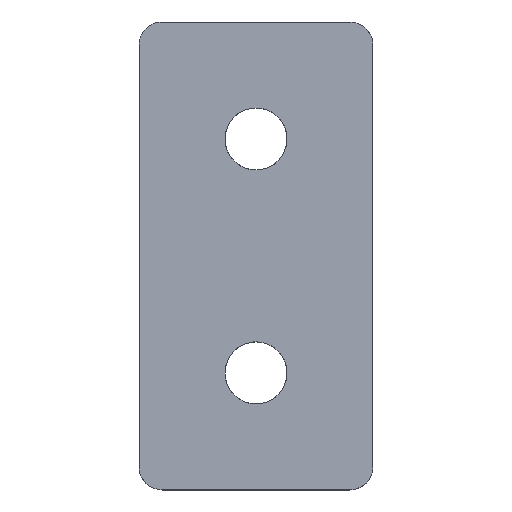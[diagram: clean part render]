
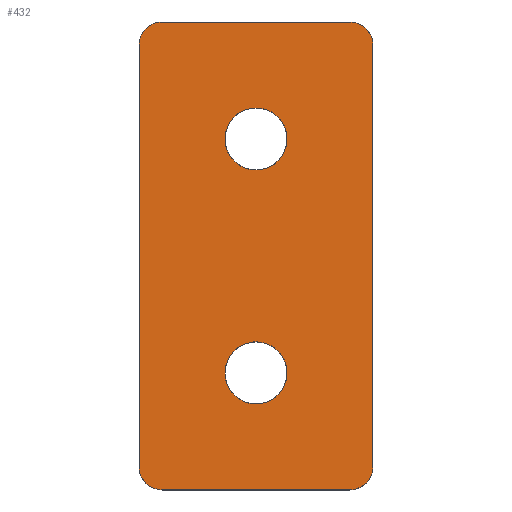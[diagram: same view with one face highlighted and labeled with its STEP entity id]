
A CAD part, top view. The second image highlights one B-rep face of the part: STEP entity #432.
In plain terms, the highlighted planar face has unit normal (0.028, 0, 1).
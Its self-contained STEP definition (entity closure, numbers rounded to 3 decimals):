
#6=DIRECTION('',(1.,0.,-0.028));
#7=VECTOR('',#6,16.006);
#8=CARTESIAN_POINT('',(-8.,-20.,5.51));
#9=LINE('',#8,#7);
#62=CARTESIAN_POINT('',(-8.,20.,5.51));
#63=CARTESIAN_POINT('',(-8.333,20.,5.52));
#64=CARTESIAN_POINT('',(-8.855,19.855,5.535));
#65=CARTESIAN_POINT('',(-9.444,19.444,5.551));
#66=CARTESIAN_POINT('',(-9.855,18.855,5.563));
#67=CARTESIAN_POINT('',(-10.,18.333,5.567));
#68=CARTESIAN_POINT('',(-10.,18.,5.567));
#70=CARTESIAN_POINT('',(10.,18.,5.));
#71=CARTESIAN_POINT('',(10.,18.333,5.));
#72=CARTESIAN_POINT('',(9.855,18.855,5.004));
#73=CARTESIAN_POINT('',(9.444,19.444,5.016));
#74=CARTESIAN_POINT('',(8.855,19.855,5.032));
#75=CARTESIAN_POINT('',(8.333,20.,5.047));
#76=CARTESIAN_POINT('',(8.,20.,5.057));
#78=CARTESIAN_POINT('',(8.,-20.,5.057));
#79=CARTESIAN_POINT('',(8.333,-20.,5.047));
#80=CARTESIAN_POINT('',(8.855,-19.855,5.032));
#81=CARTESIAN_POINT('',(9.444,-19.444,5.016));
#82=CARTESIAN_POINT('',(9.855,-18.855,5.004));
#83=CARTESIAN_POINT('',(10.,-18.333,5.));
#84=CARTESIAN_POINT('',(10.,-18.,5.));
#86=CARTESIAN_POINT('',(-10.,-18.,5.567));
#87=CARTESIAN_POINT('',(-10.,-18.333,5.567));
#88=CARTESIAN_POINT('',(-9.855,-18.855,5.563));
#89=CARTESIAN_POINT('',(-9.444,-19.444,5.551));
#90=CARTESIAN_POINT('',(-8.855,-19.855,5.535));
#91=CARTESIAN_POINT('',(-8.333,-20.,5.52));
#92=CARTESIAN_POINT('',(-8.,-20.,5.51));
#94=DIRECTION('',(0.,1.,0.));
#95=VECTOR('',#94,36.);
#96=CARTESIAN_POINT('',(-10.,-18.,5.567));
#97=LINE('',#96,#95);
#98=CARTESIAN_POINT('',(2.65,10.,5.208));
#99=CARTESIAN_POINT('',(2.65,9.688,5.208));
#100=CARTESIAN_POINT('',(2.537,9.013,5.212));
#101=CARTESIAN_POINT('',(1.929,8.07,5.229));
#102=CARTESIAN_POINT('',(1.145,7.565,5.251));
#103=CARTESIAN_POINT('',(0.479,7.378,5.27));
#104=CARTESIAN_POINT('',(0.,7.336,5.283));
#105=CARTESIAN_POINT('',(-0.479,7.378,5.297));
#106=CARTESIAN_POINT('',(-1.145,7.565,5.316));
#107=CARTESIAN_POINT('',(-1.929,8.07,5.338));
#108=CARTESIAN_POINT('',(-2.537,9.013,5.355));
#109=CARTESIAN_POINT('',(-2.65,9.688,5.359));
#110=CARTESIAN_POINT('',(-2.65,10.,5.359));
#112=CARTESIAN_POINT('',(-2.65,10.,5.359));
#113=CARTESIAN_POINT('',(-2.65,10.312,5.359));
#114=CARTESIAN_POINT('',(-2.537,10.987,5.355));
#115=CARTESIAN_POINT('',(-1.929,11.93,5.338));
#116=CARTESIAN_POINT('',(-1.145,12.435,5.316));
#117=CARTESIAN_POINT('',(-0.479,12.622,5.297));
#118=CARTESIAN_POINT('',(0.,12.664,5.283));
#119=CARTESIAN_POINT('',(0.479,12.622,5.27));
#120=CARTESIAN_POINT('',(1.145,12.435,5.251));
#121=CARTESIAN_POINT('',(1.929,11.93,5.229));
#122=CARTESIAN_POINT('',(2.537,10.987,5.212));
#123=CARTESIAN_POINT('',(2.65,10.312,5.208));
#124=CARTESIAN_POINT('',(2.65,10.,5.208));
#126=CARTESIAN_POINT('',(2.65,-10.,5.208));
#127=CARTESIAN_POINT('',(2.65,-10.312,5.208));
#128=CARTESIAN_POINT('',(2.537,-10.987,5.212));
#129=CARTESIAN_POINT('',(1.929,-11.93,5.229));
#130=CARTESIAN_POINT('',(1.145,-12.435,5.251));
#131=CARTESIAN_POINT('',(0.479,-12.622,5.27));
#132=CARTESIAN_POINT('',(0.,-12.664,5.283));
#133=CARTESIAN_POINT('',(-0.479,-12.622,
5.297));
#134=CARTESIAN_POINT('',(-1.145,-12.435,5.316));
#135=CARTESIAN_POINT('',(-1.929,-11.93,5.338));
#136=CARTESIAN_POINT('',(-2.537,-10.987,5.355));
#137=CARTESIAN_POINT('',(-2.65,-10.312,5.359));
#138=CARTESIAN_POINT('',(-2.65,-10.,5.359));
#140=CARTESIAN_POINT('',(-2.65,-10.,5.359));
#141=CARTESIAN_POINT('',(-2.65,-9.688,5.359));
#142=CARTESIAN_POINT('',(-2.537,-9.013,5.355));
#143=CARTESIAN_POINT('',(-1.929,-8.07,5.338));
#144=CARTESIAN_POINT('',(-1.145,-7.565,5.316));
#145=CARTESIAN_POINT('',(-0.479,-7.378,
5.297));
#146=CARTESIAN_POINT('',(0.,-7.336,5.283));
#147=CARTESIAN_POINT('',(0.479,-7.378,5.27));
#148=CARTESIAN_POINT('',(1.145,-7.565,5.251));
#149=CARTESIAN_POINT('',(1.929,-8.07,5.229));
#150=CARTESIAN_POINT('',(2.537,-9.013,5.212));
#151=CARTESIAN_POINT('',(2.65,-9.688,5.208));
#152=CARTESIAN_POINT('',(2.65,-10.,5.208));
#166=DIRECTION('',(1.,0.,-0.028));
#167=VECTOR('',#166,16.006);
#168=CARTESIAN_POINT('',(-8.,20.,5.51));
#169=LINE('',#168,#167);
#178=DIRECTION('',(0.,1.,0.));
#179=VECTOR('',#178,36.);
#180=CARTESIAN_POINT('',(10.,-18.,5.));
#181=LINE('',#180,#179);
#266=VERTEX_POINT('',#62);
#267=VERTEX_POINT('',#68);
#276=CARTESIAN_POINT('',(10.,18.,5.));
#277=VERTEX_POINT('',#276);
#278=VERTEX_POINT('',#76);
#283=CARTESIAN_POINT('',(-10.,-18.,5.567));
#284=VERTEX_POINT('',#283);
#285=VERTEX_POINT('',#92);
#286=VERTEX_POINT('',#78);
#287=VERTEX_POINT('',#84);
#312=VERTEX_POINT('',#98);
#313=VERTEX_POINT('',#110);
#318=VERTEX_POINT('',#126);
#319=VERTEX_POINT('',#138);
#400=CARTESIAN_POINT('',(-10.,-20.,5.567));
#401=DIRECTION('',(0.028,0.,1.));
#402=DIRECTION('',(1.,0.,-0.028));
#403=AXIS2_PLACEMENT_3D('',#400,#401,#402);
#404=PLANE('',#403);
#405=ORIENTED_EDGE('',*,*,#390,.F.);
#407=ORIENTED_EDGE('',*,*,#406,.T.);
#409=ORIENTED_EDGE('',*,*,#408,.F.);
#411=ORIENTED_EDGE('',*,*,#410,.F.);
#413=ORIENTED_EDGE('',*,*,#412,.F.);
#414=ORIENTED_EDGE('',*,*,#327,.F.);
#415=ORIENTED_EDGE('',*,*,#345,.F.);
#417=ORIENTED_EDGE('',*,*,#416,.T.);
#418=EDGE_LOOP('',(#405,#407,#409,#411,#413,#414,#415,#417));
#419=FACE_OUTER_BOUND('',#418,.F.);
#421=ORIENTED_EDGE('',*,*,#420,.F.);
#423=ORIENTED_EDGE('',*,*,#422,.F.);
#424=EDGE_LOOP('',(#421,#423));
#425=FACE_BOUND('',#424,.F.);
#427=ORIENTED_EDGE('',*,*,#426,.F.);
#429=ORIENTED_EDGE('',*,*,#428,.F.);
#430=EDGE_LOOP('',(#427,#429));
#431=FACE_BOUND('',#430,.F.);
#432=ADVANCED_FACE('',(#419,#425,#431),#404,.T.);
#69=B_SPLINE_CURVE_WITH_KNOTS('',3,(#62,#63,#64,#65,#66,#67,#68),.UNSPECIFIED.,
.F.,.F.,(4,1,1,1,4),(0.,0.25,0.5,0.75,1.),.UNSPECIFIED.);
#77=B_SPLINE_CURVE_WITH_KNOTS('',3,(#70,#71,#72,#73,#74,#75,#76),.UNSPECIFIED.,
.F.,.F.,(4,1,1,1,4),(0.,0.25,0.5,0.75,1.),.UNSPECIFIED.);
#85=B_SPLINE_CURVE_WITH_KNOTS('',3,(#78,#79,#80,#81,#82,#83,#84),.UNSPECIFIED.,
.F.,.F.,(4,1,1,1,4),(0.,0.25,0.5,0.75,1.),.UNSPECIFIED.);
#93=B_SPLINE_CURVE_WITH_KNOTS('',3,(#86,#87,#88,#89,#90,#91,#92),.UNSPECIFIED.,
.F.,.F.,(4,1,1,1,4),(0.,0.25,0.5,0.75,1.),.UNSPECIFIED.);
#111=B_SPLINE_CURVE_WITH_KNOTS('',3,(#98,#99,#100,#101,#102,#103,#104,#105,#106,
#107,#108,#109,#110),.UNSPECIFIED.,.F.,.F.,(4,1,1,1,1,1,1,1,1,1,4),(0.,
0.125,0.25,0.375,0.438,0.5,0.563,0.625,0.75,0.875,1.),
.UNSPECIFIED.);
#125=B_SPLINE_CURVE_WITH_KNOTS('',3,(#112,#113,#114,#115,#116,#117,#118,#119,
#120,#121,#122,#123,#124),.UNSPECIFIED.,.F.,.F.,(4,1,1,1,1,1,1,1,1,1,4),(0.,
0.125,0.25,0.375,0.438,0.5,0.563,0.625,0.75,0.875,1.),
.UNSPECIFIED.);
#139=B_SPLINE_CURVE_WITH_KNOTS('',3,(#126,#127,#128,#129,#130,#131,#132,#133,
#134,#135,#136,#137,#138),.UNSPECIFIED.,.F.,.F.,(4,1,1,1,1,1,1,1,1,1,4),(0.,
0.125,0.25,0.375,0.438,0.5,0.563,0.625,0.75,0.875,1.),
.UNSPECIFIED.);
#153=B_SPLINE_CURVE_WITH_KNOTS('',3,(#140,#141,#142,#143,#144,#145,#146,#147,
#148,#149,#150,#151,#152),.UNSPECIFIED.,.F.,.F.,(4,1,1,1,1,1,1,1,1,1,4),(0.,
0.125,0.25,0.375,0.438,0.5,0.563,0.625,0.75,0.875,1.),
.UNSPECIFIED.);
#327=EDGE_CURVE('',#285,#286,#9,.T.);
#345=EDGE_CURVE('',#284,#285,#93,.T.);
#390=EDGE_CURVE('',#266,#267,#69,.T.);
#406=EDGE_CURVE('',#266,#278,#169,.T.);
#408=EDGE_CURVE('',#277,#278,#77,.T.);
#410=EDGE_CURVE('',#287,#277,#181,.T.);
#412=EDGE_CURVE('',#286,#287,#85,.T.);
#416=EDGE_CURVE('',#284,#267,#97,.T.);
#420=EDGE_CURVE('',#312,#313,#111,.T.);
#422=EDGE_CURVE('',#313,#312,#125,.T.);
#426=EDGE_CURVE('',#318,#319,#139,.T.);
#428=EDGE_CURVE('',#319,#318,#153,.T.);
